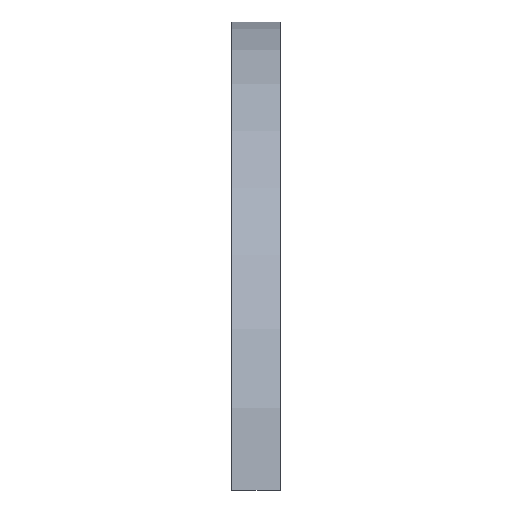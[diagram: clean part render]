
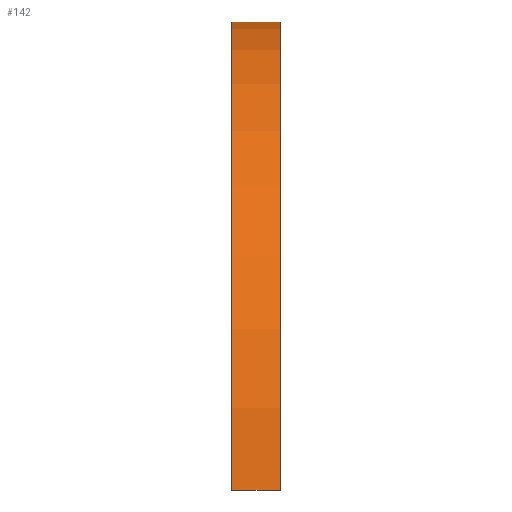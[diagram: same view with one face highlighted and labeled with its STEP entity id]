
A CAD part, left-side view. The second image highlights one B-rep face of the part: STEP entity #142.
In plain terms, the highlighted cylindrical face has radius 62.4 mm (diameter 124.8 mm), a partial arc.
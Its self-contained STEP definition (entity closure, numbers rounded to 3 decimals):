
#142=ADVANCED_FACE('',(#214),#180,.T.);
#180=CYLINDRICAL_SURFACE('',#899,62.4);
#214=FACE_OUTER_BOUND('',#250,.T.);
#250=EDGE_LOOP('',(#456,#457,#458,#459));
#312=LINE('',#1357,#352);
#313=LINE('',#1361,#353);
#352=VECTOR('',#1111,1.);
#353=VECTOR('',#1114,1.);
#456=ORIENTED_EDGE('',*,*,#728,.T.);
#457=ORIENTED_EDGE('',*,*,#729,.F.);
#458=ORIENTED_EDGE('',*,*,#730,.F.);
#459=ORIENTED_EDGE('',*,*,#731,.T.);
#640=VERTEX_POINT('',#1355);
#641=VERTEX_POINT('',#1356);
#642=VERTEX_POINT('',#1358);
#643=VERTEX_POINT('',#1360);
#728=EDGE_CURVE('',#640,#641,#804,.T.);
#729=EDGE_CURVE('',#642,#641,#312,.T.);
#730=EDGE_CURVE('',#643,#642,#805,.T.);
#731=EDGE_CURVE('',#643,#640,#313,.T.);
#804=CIRCLE('',#897,62.4);
#805=CIRCLE('',#898,62.4);
#897=AXIS2_PLACEMENT_3D('',#1354,#1109,#1110);
#898=AXIS2_PLACEMENT_3D('',#1359,#1112,#1113);
#899=AXIS2_PLACEMENT_3D('',#1362,#1115,#1116);
#1109=DIRECTION('',(0.,1.,0.));
#1110=DIRECTION('',(1.,0.,0.));
#1111=DIRECTION('',(0.,-1.,0.));
#1112=DIRECTION('',(0.,1.,0.));
#1113=DIRECTION('',(1.,0.,0.));
#1114=DIRECTION('',(0.,-1.,0.));
#1115=DIRECTION('',(0.,-1.,0.));
#1116=DIRECTION('',(0.,0.,-1.));
#1354=CARTESIAN_POINT('',(0.,-130.5,0.));
#1355=CARTESIAN_POINT('',(-62.382,-130.5,1.5));
#1356=CARTESIAN_POINT('',(62.382,-130.5,1.5));
#1357=CARTESIAN_POINT('',(62.382,-124.15,1.5));
#1358=CARTESIAN_POINT('',(62.382,-124.15,1.5));
#1359=CARTESIAN_POINT('',(0.,-124.15,0.));
#1360=CARTESIAN_POINT('',(-62.382,-124.15,1.5));
#1361=CARTESIAN_POINT('',(-62.382,-124.15,1.5));
#1362=CARTESIAN_POINT('',(0.,-124.15,0.));
